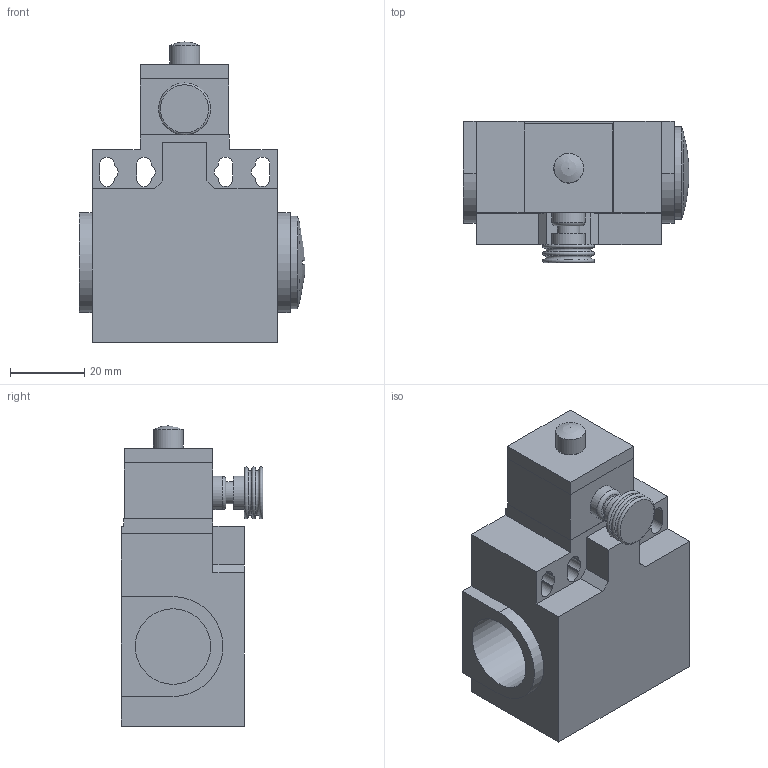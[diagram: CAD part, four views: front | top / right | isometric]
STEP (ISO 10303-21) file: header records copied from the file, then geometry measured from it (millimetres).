
FILE_DESCRIPTION((''),'2;1');
FILE_NAME('D:\Documenti_D\Corrispondenza\Comepi\Catalogo da fare\Modelli Nov 2011\DP\STEP\DP1-R11.iam.step','2011-11-17T12:04:33',(''),(''),'Autodesk Inventor 2010','Autodesk Inventor 2010','');
FILE_SCHEMA(('AUTOMOTIVE_DESIGN { 1 0 10303 214 1 1 1 1 }'));
Length unit declared in the file: millimetre
Products named in the file (8): DP1-R11; DP1; tappo; R11.iam; R; T10_1; T10_2
Assembly tree (7 placements, depth 3):
  DP1-R11
    DP1
      DP1
      tappo
    R11.iam
      R
      T10_1
      T10_2
Bounding box: 60.92 x 38.3 x 81.1 mm (x, y, z)
Volume: 82354.1 mm3; surface area: 24270.3 mm2
Topology: 5 solids, 5 shells, 91 faces, 225 edges, 148 vertices
Faces by surface type: plane 61, cylinder 21, torus 6, sphere 2, cone 1
Full cylindrical faces by diameter (mm): 6 x1, 8 x2, 9 x2, 20.4 x1, 25 x1
Entity records: 2875 total; most frequent: DIRECTION 474, CARTESIAN_POINT 460, ORIENTED_EDGE 416, EDGE_CURVE 208, AXIS2_PLACEMENT_3D 160, VECTOR 154, LINE 154, VERTEX_POINT 146
